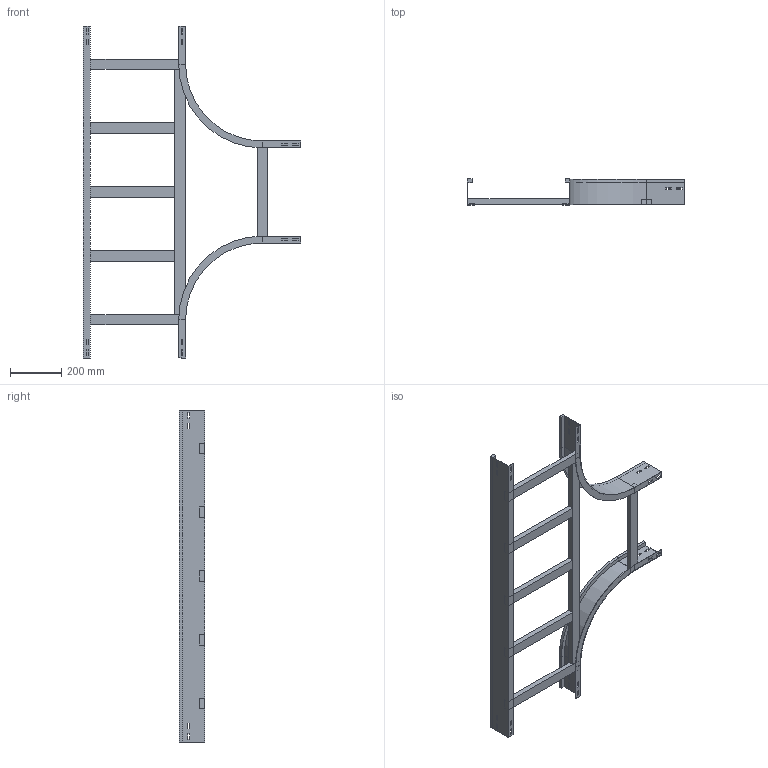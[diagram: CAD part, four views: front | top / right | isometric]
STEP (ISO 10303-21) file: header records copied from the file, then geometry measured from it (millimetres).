
FILE_DESCRIPTION (( 'STEP AP214' ), '1' );
FILE_NAME ('A2_15B3D400.step', '2025-02-21T15:49:36', ( '' ), ( '' ), 'SwSTEP 2.0', 'SolidWorks 2023', '' );
FILE_SCHEMA (( 'AUTOMOTIVE_DESIGN' ));
Length unit declared in the file: millimetre
Products named in the file (6): A2_LONGH.RETT_H100_R300+400; TRAVERSINO_400; TRAVERSINO_INTERMEDIO_R300+400; A2_15B3D400; A2_TRAVERSINO_LONG._R300+400; A2_LONGH.INTERNO 90°_H100_R300
Assembly tree (10 placements, depth 2):
  A2_15B3D400
    A2_LONGH.INTERNO 90°_H100_R300  x2
    A2_LONGH.RETT_H100_R300+400
    TRAVERSINO_400  x3
    A2_TRAVERSINO_LONG._R300+400
    TRAVERSINO_INTERMEDIO_R300+400  x3
Bounding box: 850 x 100 x 1300 mm (x, y, z)
Volume: 3861261 mm3; surface area: 1215910.8 mm2
Topology: 10 solids, 10 shells, 200 faces, 508 edges, 328 vertices
Faces by surface type: plane 192, cylinder 8
Entity records: 3823 total; most frequent: CARTESIAN_POINT 639, ORIENTED_EDGE 616, DIRECTION 578, EDGE_CURVE 308, VECTOR 300, LINE 300, VERTEX_POINT 200, EDGE_LOOP 150
